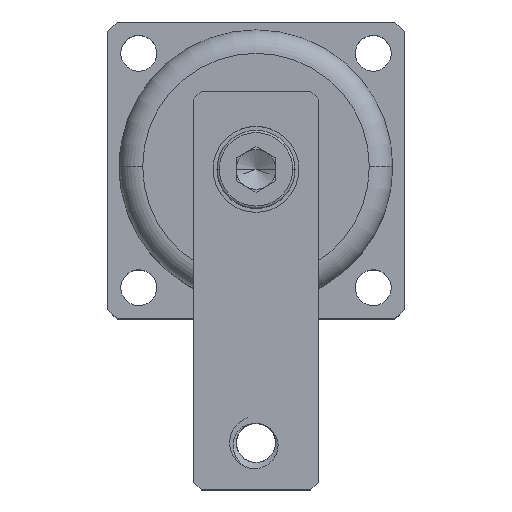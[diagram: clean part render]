
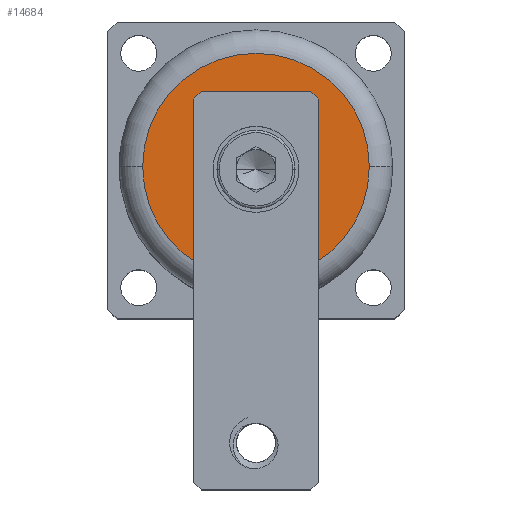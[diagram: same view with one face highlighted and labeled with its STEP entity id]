
A CAD part, top view. The second image highlights one B-rep face of the part: STEP entity #14684.
In plain terms, the highlighted planar face has unit normal (0, 0, 1).
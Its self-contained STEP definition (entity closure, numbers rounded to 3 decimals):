
#12729 = TOROIDAL_SURFACE('',#12730,14.5,3.);
#12730 = AXIS2_PLACEMENT_3D('',#12731,#12732,#12733);
#12731 = CARTESIAN_POINT('',(0.,19.424,62.));
#12732 = DIRECTION('',(0.,0.,1.));
#12733 = DIRECTION('',(1.,0.,-0.));
#12754 = VERTEX_POINT('',#12755);
#12755 = CARTESIAN_POINT('',(-14.5,19.424,65.));
#12770 = TOROIDAL_SURFACE('',#12771,14.5,3.);
#12771 = AXIS2_PLACEMENT_3D('',#12772,#12773,#12774);
#12772 = CARTESIAN_POINT('',(0.,19.424,62.));
#12773 = DIRECTION('',(0.,0.,1.));
#12774 = DIRECTION('',(1.,0.,-0.));
#12782 = EDGE_CURVE('',#12783,#12754,#12785,.T.);
#12783 = VERTEX_POINT('',#12784);
#12784 = CARTESIAN_POINT('',(14.5,19.424,65.));
#12785 = SURFACE_CURVE('',#12786,(#12791,#12798),.PCURVE_S1.);
#12786 = CIRCLE('',#12787,14.5);
#12787 = AXIS2_PLACEMENT_3D('',#12788,#12789,#12790);
#12788 = CARTESIAN_POINT('',(0.,19.424,65.));
#12789 = DIRECTION('',(0.,0.,1.));
#12790 = DIRECTION('',(1.,0.,-0.));
#12791 = PCURVE('',#12729,#12792);
#12792 = DEFINITIONAL_REPRESENTATION('',(#12793),#12797);
#12793 = LINE('',#12794,#12795);
#12794 = CARTESIAN_POINT('',(0.,1.571));
#12795 = VECTOR('',#12796,1.);
#12796 = DIRECTION('',(1.,0.));
#12797 = ( GEOMETRIC_REPRESENTATION_CONTEXT(2) 
PARAMETRIC_REPRESENTATION_CONTEXT() REPRESENTATION_CONTEXT('2D SPACE',''
  ) );
#12798 = PCURVE('',#12799,#12804);
#12799 = PLANE('',#12800);
#12800 = AXIS2_PLACEMENT_3D('',#12801,#12802,#12803);
#12801 = CARTESIAN_POINT('',(0.,19.424,65.));
#12802 = DIRECTION('',(0.,0.,1.));
#12803 = DIRECTION('',(1.,0.,-0.));
#12804 = DEFINITIONAL_REPRESENTATION('',(#12805),#12809);
#12805 = CIRCLE('',#12806,14.5);
#12806 = AXIS2_PLACEMENT_2D('',#12807,#12808);
#12807 = CARTESIAN_POINT('',(0.,0.));
#12808 = DIRECTION('',(1.,0.));
#12809 = ( GEOMETRIC_REPRESENTATION_CONTEXT(2) 
PARAMETRIC_REPRESENTATION_CONTEXT() REPRESENTATION_CONTEXT('2D SPACE',''
  ) );
#13110 = VERTEX_POINT('',#13111);
#13111 = CARTESIAN_POINT('',(-7.,19.,65.));
#13120 = CYLINDRICAL_SURFACE('',#13121,7.);
#13121 = AXIS2_PLACEMENT_3D('',#13122,#13123,#13124);
#13122 = CARTESIAN_POINT('',(0.,19.,65.));
#13123 = DIRECTION('',(-0.,-0.,-1.));
#13124 = DIRECTION('',(-1.,0.,0.));
#13132 = CYLINDRICAL_SURFACE('',#13133,7.);
#13133 = AXIS2_PLACEMENT_3D('',#13134,#13135,#13136);
#13134 = CARTESIAN_POINT('',(0.,19.,65.));
#13135 = DIRECTION('',(-0.,-0.,-1.));
#13136 = DIRECTION('',(-1.,0.,0.));
#13173 = VERTEX_POINT('',#13174);
#13174 = CARTESIAN_POINT('',(7.,19.,65.));
#13195 = EDGE_CURVE('',#13173,#13110,#13196,.T.);
#13196 = SURFACE_CURVE('',#13197,(#13202,#13209),.PCURVE_S1.);
#13197 = CIRCLE('',#13198,7.);
#13198 = AXIS2_PLACEMENT_3D('',#13199,#13200,#13201);
#13199 = CARTESIAN_POINT('',(0.,19.,65.));
#13200 = DIRECTION('',(0.,0.,-1.));
#13201 = DIRECTION('',(-1.,0.,0.));
#13202 = PCURVE('',#13120,#13203);
#13203 = DEFINITIONAL_REPRESENTATION('',(#13204),#13208);
#13204 = LINE('',#13205,#13206);
#13205 = CARTESIAN_POINT('',(0.,0.));
#13206 = VECTOR('',#13207,1.);
#13207 = DIRECTION('',(1.,0.));
#13208 = ( GEOMETRIC_REPRESENTATION_CONTEXT(2) 
PARAMETRIC_REPRESENTATION_CONTEXT() REPRESENTATION_CONTEXT('2D SPACE',''
  ) );
#13209 = PCURVE('',#12799,#13210);
#13210 = DEFINITIONAL_REPRESENTATION('',(#13211),#13219);
#13211 = ( BOUNDED_CURVE() B_SPLINE_CURVE(2,(#13212,#13213,#13214,#13215
    ,#13216,#13217,#13218),.UNSPECIFIED.,.T.,.F.) 
B_SPLINE_CURVE_WITH_KNOTS((1,2,2,2,2,1),(-2.094,0.,
    2.094,4.189,6.283,8.378),
.UNSPECIFIED.) CURVE() GEOMETRIC_REPRESENTATION_ITEM() 
RATIONAL_B_SPLINE_CURVE((1.,0.5,1.,0.5,1.,0.5,1.)) REPRESENTATION_ITEM(
  '') );
#13212 = CARTESIAN_POINT('',(-7.,-0.424));
#13213 = CARTESIAN_POINT('',(-7.,11.701));
#13214 = CARTESIAN_POINT('',(3.5,5.638));
#13215 = CARTESIAN_POINT('',(14.,-0.424));
#13216 = CARTESIAN_POINT('',(3.5,-6.486));
#13217 = CARTESIAN_POINT('',(-7.,-12.548));
#13218 = CARTESIAN_POINT('',(-7.,-0.424));
#13219 = ( GEOMETRIC_REPRESENTATION_CONTEXT(2) 
PARAMETRIC_REPRESENTATION_CONTEXT() REPRESENTATION_CONTEXT('2D SPACE',''
  ) );
#13533 = EDGE_CURVE('',#13110,#13173,#13534,.T.);
#13534 = SURFACE_CURVE('',#13535,(#13540,#13547),.PCURVE_S1.);
#13535 = CIRCLE('',#13536,7.);
#13536 = AXIS2_PLACEMENT_3D('',#13537,#13538,#13539);
#13537 = CARTESIAN_POINT('',(0.,19.,65.));
#13538 = DIRECTION('',(0.,0.,-1.));
#13539 = DIRECTION('',(-1.,0.,0.));
#13540 = PCURVE('',#13132,#13541);
#13541 = DEFINITIONAL_REPRESENTATION('',(#13542),#13546);
#13542 = LINE('',#13543,#13544);
#13543 = CARTESIAN_POINT('',(0.,0.));
#13544 = VECTOR('',#13545,1.);
#13545 = DIRECTION('',(1.,0.));
#13546 = ( GEOMETRIC_REPRESENTATION_CONTEXT(2) 
PARAMETRIC_REPRESENTATION_CONTEXT() REPRESENTATION_CONTEXT('2D SPACE',''
  ) );
#13547 = PCURVE('',#12799,#13548);
#13548 = DEFINITIONAL_REPRESENTATION('',(#13549),#13557);
#13549 = ( BOUNDED_CURVE() B_SPLINE_CURVE(2,(#13550,#13551,#13552,#13553
    ,#13554,#13555,#13556),.UNSPECIFIED.,.T.,.F.) 
B_SPLINE_CURVE_WITH_KNOTS((1,2,2,2,2,1),(-2.094,0.,
    2.094,4.189,6.283,8.378),
.UNSPECIFIED.) CURVE() GEOMETRIC_REPRESENTATION_ITEM() 
RATIONAL_B_SPLINE_CURVE((1.,0.5,1.,0.5,1.,0.5,1.)) REPRESENTATION_ITEM(
  '') );
#13550 = CARTESIAN_POINT('',(-7.,-0.424));
#13551 = CARTESIAN_POINT('',(-7.,11.701));
#13552 = CARTESIAN_POINT('',(3.5,5.638));
#13553 = CARTESIAN_POINT('',(14.,-0.424));
#13554 = CARTESIAN_POINT('',(3.5,-6.486));
#13555 = CARTESIAN_POINT('',(-7.,-12.548));
#13556 = CARTESIAN_POINT('',(-7.,-0.424));
#13557 = ( GEOMETRIC_REPRESENTATION_CONTEXT(2) 
PARAMETRIC_REPRESENTATION_CONTEXT() REPRESENTATION_CONTEXT('2D SPACE',''
  ) );
#14684 = ADVANCED_FACE('',(#14685,#14689),#12799,.T.);
#14685 = FACE_BOUND('',#14686,.T.);
#14686 = EDGE_LOOP('',(#14687,#14688));
#14687 = ORIENTED_EDGE('',*,*,#13533,.T.);
#14688 = ORIENTED_EDGE('',*,*,#13195,.T.);
#14689 = FACE_BOUND('',#14690,.T.);
#14690 = EDGE_LOOP('',(#14691,#14692));
#14691 = ORIENTED_EDGE('',*,*,#12782,.T.);
#14692 = ORIENTED_EDGE('',*,*,#14693,.T.);
#14693 = EDGE_CURVE('',#12754,#12783,#14694,.T.);
#14694 = SURFACE_CURVE('',#14695,(#14700,#14707),.PCURVE_S1.);
#14695 = CIRCLE('',#14696,14.5);
#14696 = AXIS2_PLACEMENT_3D('',#14697,#14698,#14699);
#14697 = CARTESIAN_POINT('',(0.,19.424,65.));
#14698 = DIRECTION('',(0.,0.,1.));
#14699 = DIRECTION('',(1.,0.,-0.));
#14700 = PCURVE('',#12799,#14701);
#14701 = DEFINITIONAL_REPRESENTATION('',(#14702),#14706);
#14702 = CIRCLE('',#14703,14.5);
#14703 = AXIS2_PLACEMENT_2D('',#14704,#14705);
#14704 = CARTESIAN_POINT('',(0.,0.));
#14705 = DIRECTION('',(1.,0.));
#14706 = ( GEOMETRIC_REPRESENTATION_CONTEXT(2) 
PARAMETRIC_REPRESENTATION_CONTEXT() REPRESENTATION_CONTEXT('2D SPACE',''
  ) );
#14707 = PCURVE('',#12770,#14708);
#14708 = DEFINITIONAL_REPRESENTATION('',(#14709),#14713);
#14709 = LINE('',#14710,#14711);
#14710 = CARTESIAN_POINT('',(0.,1.571));
#14711 = VECTOR('',#14712,1.);
#14712 = DIRECTION('',(1.,0.));
#14713 = ( GEOMETRIC_REPRESENTATION_CONTEXT(2) 
PARAMETRIC_REPRESENTATION_CONTEXT() REPRESENTATION_CONTEXT('2D SPACE',''
  ) );
